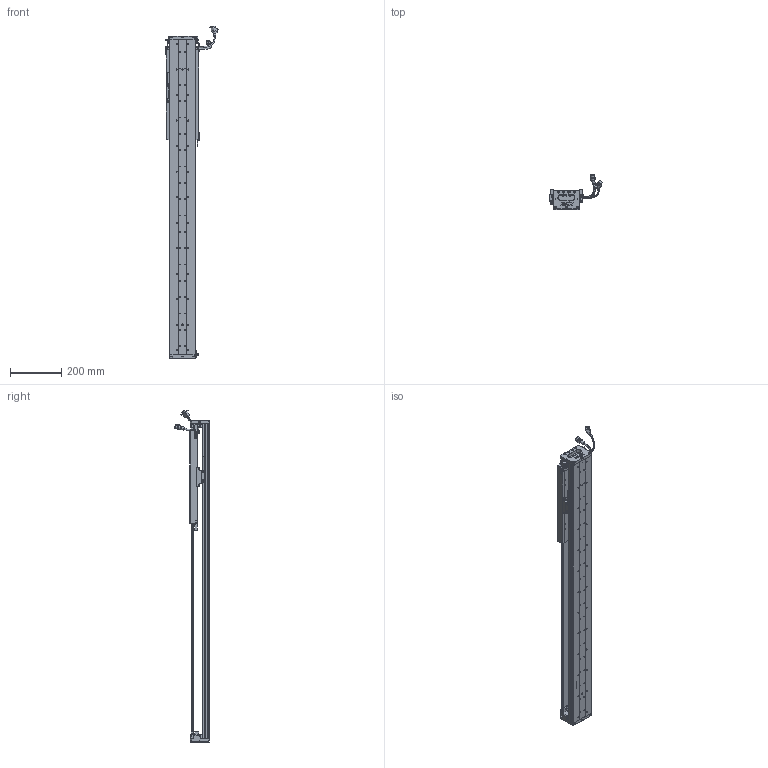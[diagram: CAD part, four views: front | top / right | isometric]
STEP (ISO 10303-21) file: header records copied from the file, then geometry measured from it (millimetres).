
FILE_DESCRIPTION (( 'STEP AP203' ), '1' );
FILE_NAME ('Z5-RY100D-1-L500-B-K.SLDASM_0800.step', '2021-05-17T03:32:45', ( '盈信电脑' ), ( '东莞市道滘镇水果街19号' ), 'SwSTEP 2.0', 'SolidWorks 2016', '' );
FILE_SCHEMA (( 'CONFIG_CONTROL_DESIGN' ));
Length unit declared in the file: millimetre
Products named in the file (36): SCREW-M1.6-2; SCREW-M1.6; SCALE; PSLH080_PSLF2; SCREW-M1.7-1; SCALE-Part-2; Z5-RY100-L500詩湍90mm遵_0800; PBU_SHEET; 100-Z-臏賑輸盄裔(21遴); HARNESS; SHIELDPLATE; COVER-Part-1; Z5-RY100D-500-倰第菁釱_0800; HARNESS-Part-1; 140蚥薯蝶輸; SCREW-M1.6-3; LABEL-Part-1; SEAL-Part-1; SCALE-Part-1; Z-RY100D覜茼んえ; HARNESS-Part-2; Z-RY100D詩湍狟揤裔; 覜茼ん672; Z5-RY100D-1-L500-B-K.SLDASM_0800; 080黍杅芛假蚾釱21遴; HOLDER0; Z-RY100D詩湍奻揤裔; Z5-RY100铝滑块（21款）; 榋妏寠巭燃_暯_M2_2; SCREW-M1.6-1; 140雄赽晤鎢ん堤盄; LABEL; SEAL; Z-100詩湍傷裔啣; SCREW-M1.7; COVER
Assembly tree (43 placements, depth 4):
  Z5-RY100D-1-L500-B-K.SLDASM_0800
    Z5-RY100D-500-倰第菁釱_0800
    Z5-RY100铝滑块（21款）
    PSLH080_PSLF2
      SCALE
        SCALE-Part-1
        SCALE-Part-2
      HARNESS
        HARNESS-Part-1
        HARNESS-Part-2
      LABEL
        LABEL-Part-1
      COVER
        COVER-Part-1
      SEAL
        SEAL-Part-1
      榋妏寠巭燃_暯_M2_2
      SHIELDPLATE
      SCREW-M1.7
      SCREW-M1.7-1
      PBU_SHEET
      SCREW-M1.6
      SCREW-M1.6-1
      SCREW-M1.6-2
      SCREW-M1.6-3
      HOLDER0
    080黍杅芛假蚾釱21遴
    Z-100詩湍傷裔啣  x2
    140蚥薯蝶輸  x2
    覜茼ん672  x3
    Z-RY100D覜茼んえ  x3
    100-Z-臏賑輸盄裔(21遴)
    140雄赽晤鎢ん堤盄
    Z5-RY100-L500詩湍90mm遵_0800
    Z-RY100D詩湍狟揤裔  x2
    Z-RY100D詩湍奻揤裔  x2
Bounding box: 205.84 x 136.11 x 1300.43 mm (x, y, z)
Volume: 2907917 mm3; surface area: 1083521.6 mm2
Topology: 38 solids, 38 shells, 2655 faces, 7003 edges, 4436 vertices
Faces by surface type: cylinder 1174, plane 1133, cone 226, torus 69, bspline 53
Entity records: 72841 total; most frequent: CARTESIAN_POINT 15323, DIRECTION 11577, ORIENTED_EDGE 10886, EDGE_CURVE 5443, AXIS2_PLACEMENT_3D 4274, VERTEX_POINT 3504, LINE 3029, VECTOR 3029
